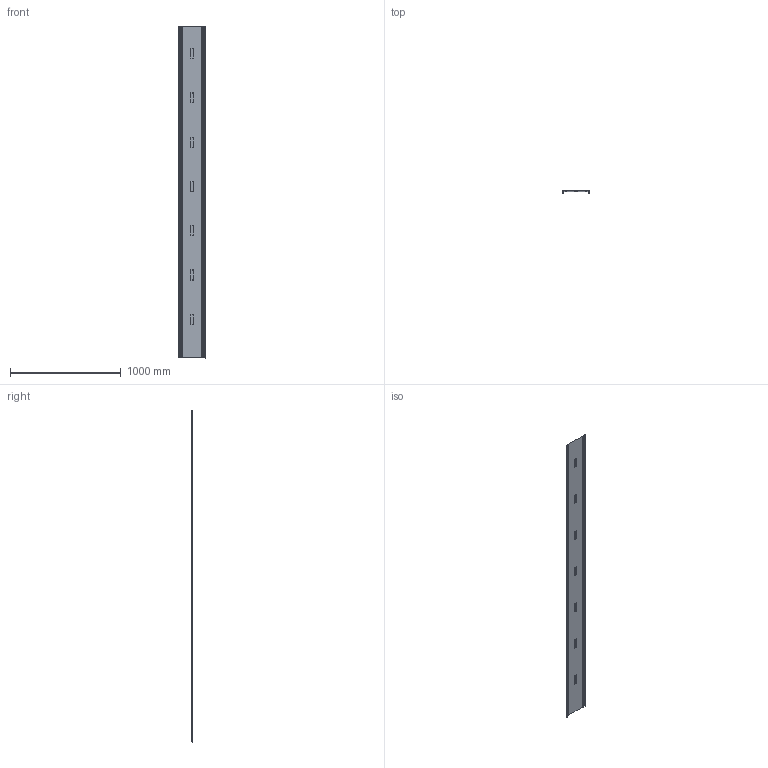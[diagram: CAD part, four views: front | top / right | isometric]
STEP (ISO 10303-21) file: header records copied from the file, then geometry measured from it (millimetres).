
FILE_DESCRIPTION (( 'STEP AP214' ), '1' );
FILE_NAME ('TFEL 200.STEP', '2023-06-28T14:02:52', ( '' ), ( '' ), 'SwSTEP 2.0', 'SolidWorks 2022', '' );
FILE_SCHEMA (( 'AUTOMOTIVE_DESIGN' ));
Length unit declared in the file: millimetre
Products named in the file (1): TFEL 200
Bounding box: 240 x 15 x 3000 mm (x, y, z)
Volume: 649912.2 mm3; surface area: 1625800 mm2
Topology: 1 solids, 1 shells, 1030 faces, 2722 edges, 1756 vertices
Faces by surface type: plane 549, bspline 329, cylinder 96, torus 56
Entity records: 43614 total; most frequent: CARTESIAN_POINT 20118, ORIENTED_EDGE 5444, DIRECTION 3788, EDGE_CURVE 2722, VERTEX_POINT 1756, VECTOR 1744, LINE 1744, EDGE_LOOP 1100
